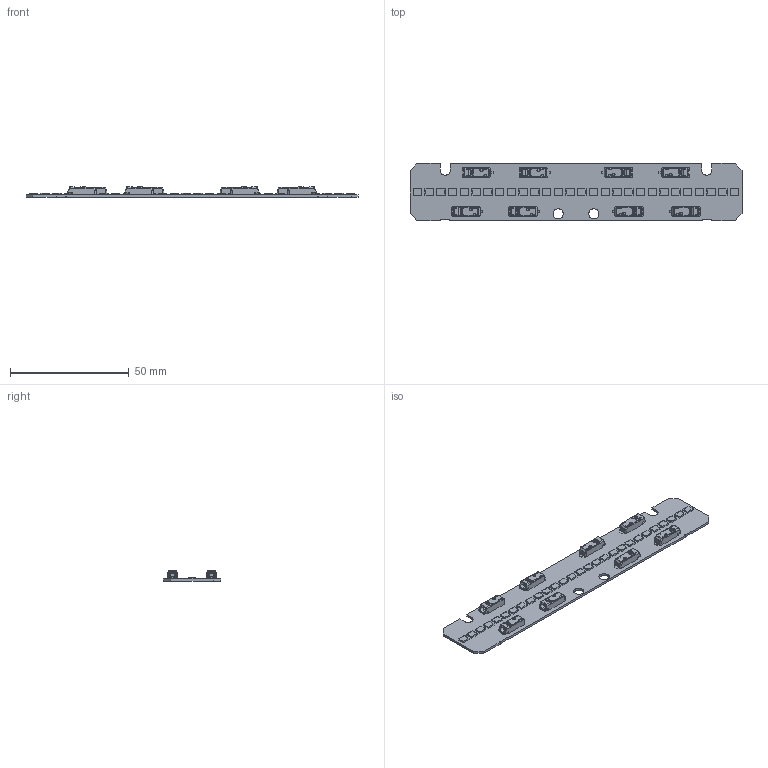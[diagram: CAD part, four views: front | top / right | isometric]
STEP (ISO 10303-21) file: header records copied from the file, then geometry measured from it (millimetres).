
FILE_DESCRIPTION(/* description */ ('Unknown'),/* implementation_level */ '2;1');
FILE_NAME(/* name */ 'LinLED 140x24mm 2x500lm 2x4C',/* time_stamp */ '2023-01-26T13:49:36+01:00',/* author */ ('Unknown'),/* organization */ ('Unknown'),/* preprocessor_version */ 'ST-DEVELOPER v18.102',/* originating_system */ 'Solid Edge',/* authorisation */ 'Unknown');
FILE_SCHEMA (('AUTOMOTIVE_DESIGN {1 0 10303 214 3 1 1}'));
Products named in the file (1): LinLED 140x24mm 2x500lm 2x4C
Bounding box: 139.6 x 24 x 4.45 mm (x, y, z)
Volume: 4399 mm3; surface area: 8757.4 mm2
Topology: 1 solids, 1 shells, 2368 faces, 6106 edges, 3796 vertices
Faces by surface type: plane 1212, cylinder 532, torus 256, cone 200, bspline 104, sphere 64
Full cylindrical faces by diameter (mm): 4.3 x2
Entity records: 91879 total; most frequent: CARTESIAN_POINT 21173, ORIENTED_EDGE 12016, DIRECTION 9858, EDGE_CURVE 6008, VERTEX_POINT 3772, LINE 3552, VECTOR 3552, AXIS2_PLACEMENT_3D 3153
